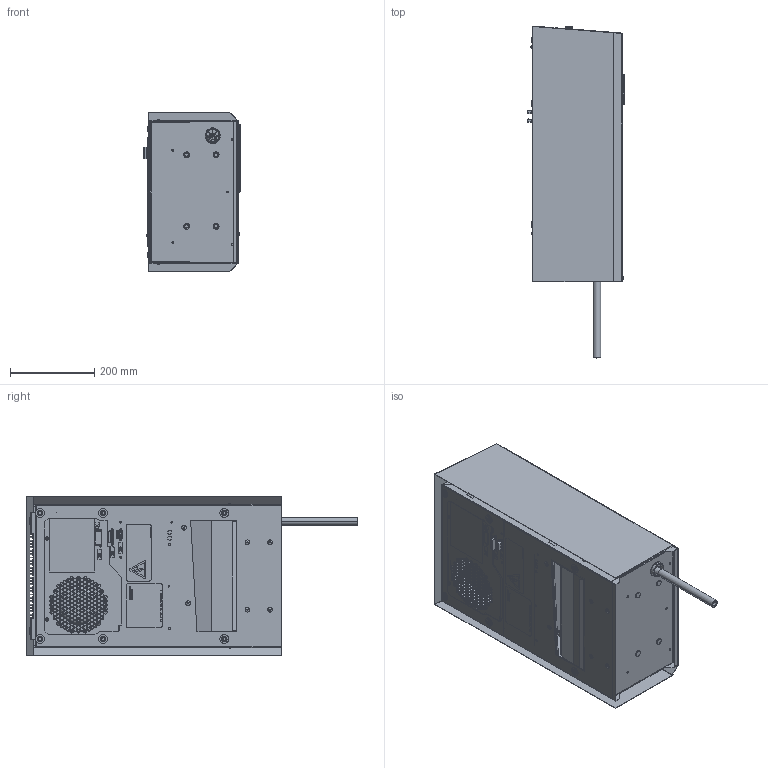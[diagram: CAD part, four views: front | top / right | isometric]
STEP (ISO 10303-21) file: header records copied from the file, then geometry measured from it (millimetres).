
FILE_DESCRIPTION (( 'STEP AP214' ), '1' );
FILE_NAME ('DTS 9041 230V.STEP', '2007-09-24T10:52:30', ( 'Pfannenberg' ), ( 'Pfannenberg Group' ), 'SwSTEP 2.0', 'SolidWorks 2007', '' );
FILE_SCHEMA (( 'AUTOMOTIVE_DESIGN' ));
Length unit declared in the file: millimetre
Products named in the file (1): DTS 9041 230V
Bounding box: 231.19 x 789.15 x 380 mm (x, y, z)
Surface area: 3073799.5 mm2 (no closed solid volume)
Topology: 0 solids, 181 shells, 1309 faces, 6248 edges, 5025 vertices
Faces by surface type: cylinder 650, plane 529, bspline 44, sphere 40, torus 32, cone 14
Entity records: 87403 total; most frequent: CARTESIAN_POINT 23187, DIRECTION 10203, ORIENTED_EDGE 8590, EDGE_CURVE 6244, VERTEX_POINT 5025, AXIS2_PLACEMENT_3D 3439, LINE 3325, VECTOR 3325
